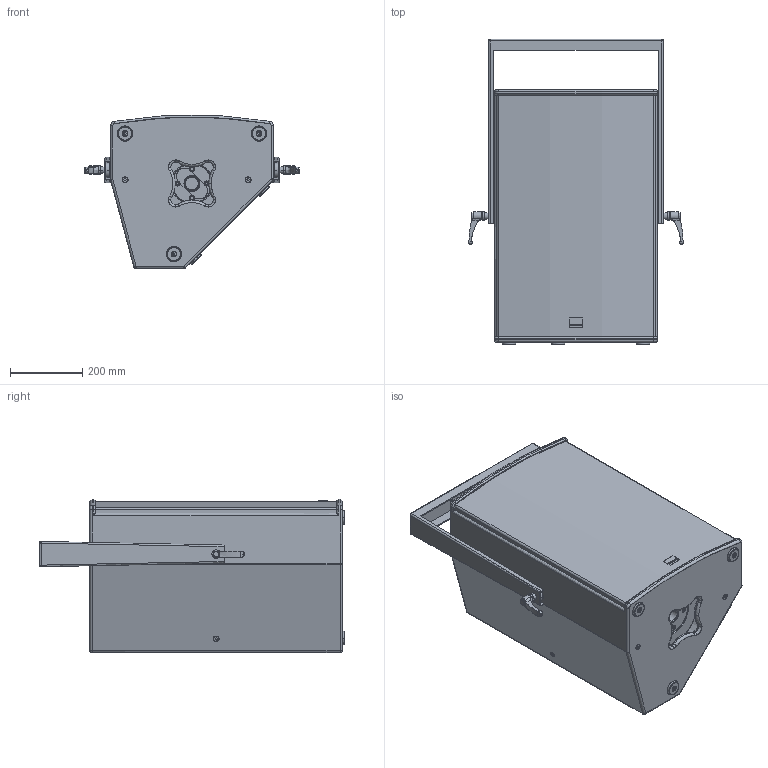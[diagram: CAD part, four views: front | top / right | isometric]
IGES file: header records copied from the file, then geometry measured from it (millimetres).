
Start section: SolidWorks IGES file using analytic representation for surfaces
Global section: file name: C:\Dokumente und Einstellungen\PC_Fabian\Desktop\3d_Dateien_Homepage\A-Serie\SEEBURG_A8_Bracket-ver.IGS; native system: SolidWorks 2009; preprocessor: SolidWorks 2009; author: PC_Fabian; date: 120928.101844; units: millimetre
Bounding box: 591.25 x 843 x 422.97 mm (x, y, z)
Surface area: 3710608.5 mm2 (no closed solid volume)
Topology: 0 solids, 0 shells, 970 faces, 13513 edges, 13509 vertices
Faces by surface type: revolution 493, bspline 477
